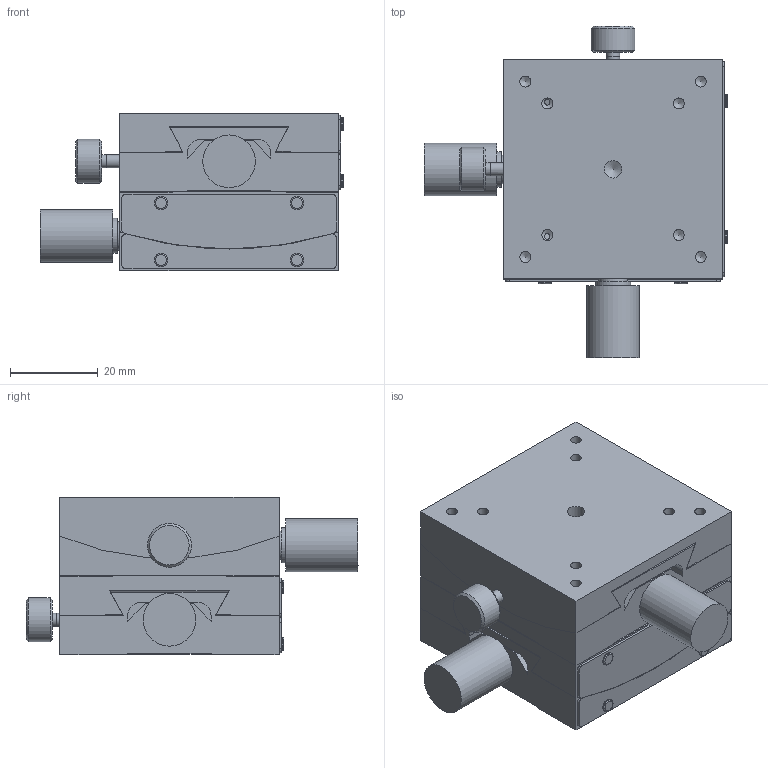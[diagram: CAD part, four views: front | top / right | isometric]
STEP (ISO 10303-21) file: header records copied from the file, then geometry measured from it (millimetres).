
FILE_DESCRIPTION( ( 'STEP AP203' ), '1' );
FILE_NAME( 'C:/3D-Trans/3D_B55-50U2R+080908.step', '2008-09-08T07:36:40', ( ' ' ), ( ' ' ), 'XStep 1.0', ' ', ' ' );
FILE_SCHEMA( ( 'CONFIG_CONTROL_DESIGN' ) );
Length unit declared in the file: millimetre
Products named in the file (6): 1; 2; 3; 4; 5; 6
Bounding box: 69.1 x 75.7 x 36 mm (x, y, z)
Volume: 90275 mm3; surface area: 39326.5 mm2
Topology: 6 solids, 6 shells, 350 faces, 864 edges, 568 vertices
Faces by surface type: plane 154, cylinder 138, cone 42, torus 16
Full cylindrical faces by diameter (mm): 2.5 x32, 3 x12, 3.5 x4, 4 x16, 4.1 x6, 4.5 x1, 6 x4, 6.5 x6, 7 x5, 8 x4, 10 x2, 12 x2
Entity records: 10087 total; most frequent: CARTESIAN_POINT 2305, DIRECTION 1602, ORIENTED_EDGE 1296, EDGE_CURVE 648, AXIS2_PLACEMENT_3D 634, EDGE_LOOP 558, VERTEX_POINT 508, FACE_OUTER_BOUND 460
